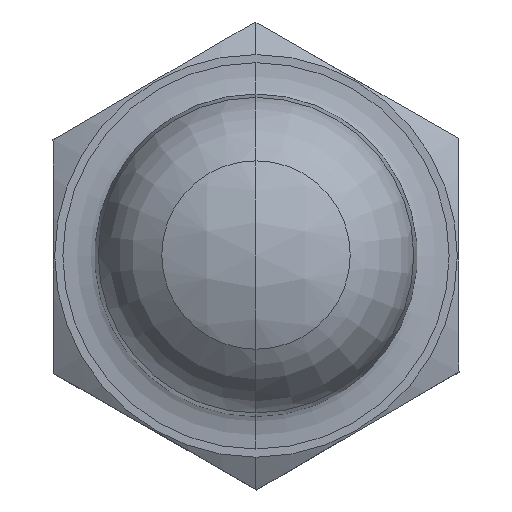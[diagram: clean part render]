
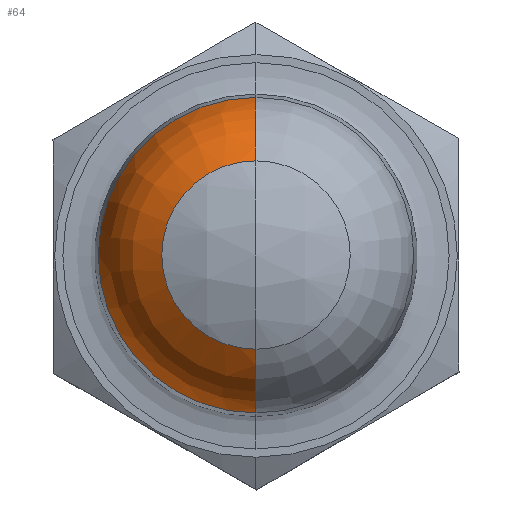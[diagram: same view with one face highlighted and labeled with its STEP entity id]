
A CAD part, top view. The second image highlights one B-rep face of the part: STEP entity #64.
In plain terms, the highlighted toroidal (fillet/blend) face has major radius 0.93 mm and minor radius 3 mm.
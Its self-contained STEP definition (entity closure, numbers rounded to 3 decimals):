
#17 = CARTESIAN_POINT ( 'NONE',  ( 0., -0.93, 12.771 ) ) ;
#64 = ADVANCED_FACE ( 'NONE', ( #444 ), #1142, .T. ) ;
#91 = ORIENTED_EDGE ( 'NONE', *, *, #317, .T. ) ;
#99 = DIRECTION ( 'NONE',  ( 0., 1., 0. ) ) ;
#115 = DIRECTION ( 'NONE',  ( 0., 1., 0. ) ) ;
#126 = VERTEX_POINT ( 'NONE', #387 ) ;
#159 = AXIS2_PLACEMENT_3D ( 'NONE', #823, #643, #99 ) ;
#181 = AXIS2_PLACEMENT_3D ( 'NONE', #17, #662, #115 ) ;
#184 = VERTEX_POINT ( 'NONE', #526 ) ;
#216 = VERTEX_POINT ( 'NONE', #1072 ) ;
#219 = DIRECTION ( 'NONE',  ( -1., 0., 0. ) ) ;
#274 = ORIENTED_EDGE ( 'NONE', *, *, #684, .F. ) ;
#308 = DIRECTION ( 'NONE',  ( 0., 0., -1. ) ) ;
#317 = EDGE_CURVE ( 'NONE', #692, #216, #835, .T. ) ;
#377 = ORIENTED_EDGE ( 'NONE', *, *, #1074, .T. ) ;
#387 = CARTESIAN_POINT ( 'NONE',  ( 0., -2.325, 15.426 ) ) ;
#425 = CARTESIAN_POINT ( 'NONE',  ( 0., 0., 12.771 ) ) ;
#444 = FACE_OUTER_BOUND ( 'NONE', #765, .T. ) ;
#450 = EDGE_CURVE ( 'NONE', #184, #216, #1163, .T. ) ;
#526 = CARTESIAN_POINT ( 'NONE',  ( 0., -3.894, 13.234 ) ) ;
#590 = AXIS2_PLACEMENT_3D ( 'NONE', #957, #308, #856 ) ;
#615 = DIRECTION ( 'NONE',  ( 0., 1., 0. ) ) ;
#643 = DIRECTION ( 'NONE',  ( 0., 0., -1. ) ) ;
#662 = DIRECTION ( 'NONE',  ( 1., 0., 0. ) ) ;
#684 = EDGE_CURVE ( 'NONE', #126, #184, #979, .T. ) ;
#692 = VERTEX_POINT ( 'NONE', #937 ) ;
#722 = DIRECTION ( 'NONE',  ( 0., 0., -1. ) ) ;
#765 = EDGE_LOOP ( 'NONE', ( #274, #377, #91, #1172 ) ) ;
#823 = CARTESIAN_POINT ( 'NONE',  ( 0., 0., 13.234 ) ) ;
#835 = CIRCLE ( 'NONE', #1186, 3. ) ;
#856 = DIRECTION ( 'NONE',  ( 0., 1., 0. ) ) ;
#875 = AXIS2_PLACEMENT_3D ( 'NONE', #425, #722, #615 ) ;
#937 = CARTESIAN_POINT ( 'NONE',  ( 0., 2.325, 15.426 ) ) ;
#957 = CARTESIAN_POINT ( 'NONE',  ( 0., 0., 15.426 ) ) ;
#973 = DIRECTION ( 'NONE',  ( 0., 0., 1. ) ) ;
#979 = CIRCLE ( 'NONE', #181, 3. ) ;
#1072 = CARTESIAN_POINT ( 'NONE',  ( 0., 3.894, 13.234 ) ) ;
#1074 = EDGE_CURVE ( 'NONE', #126, #692, #1114, .T. ) ;
#1114 = CIRCLE ( 'NONE', #590, 2.325 ) ;
#1142 = TOROIDAL_SURFACE ( 'NONE', #875, 0.93, 3. ) ;
#1143 = CARTESIAN_POINT ( 'NONE',  ( 0., 0.93, 12.771 ) ) ;
#1163 = CIRCLE ( 'NONE', #159, 3.894 ) ;
#1172 = ORIENTED_EDGE ( 'NONE', *, *, #450, .F. ) ;
#1186 = AXIS2_PLACEMENT_3D ( 'NONE', #1143, #219, #973 ) ;
